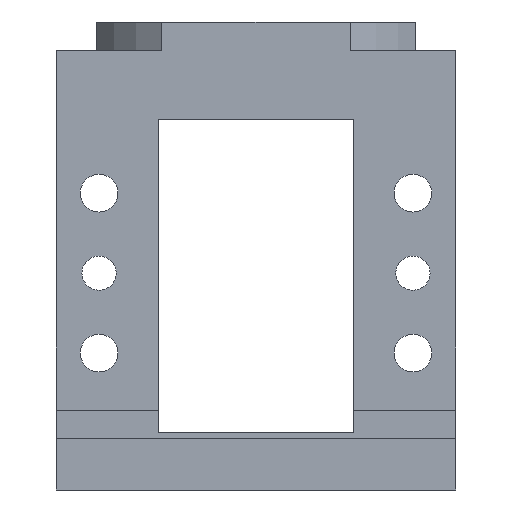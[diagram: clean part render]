
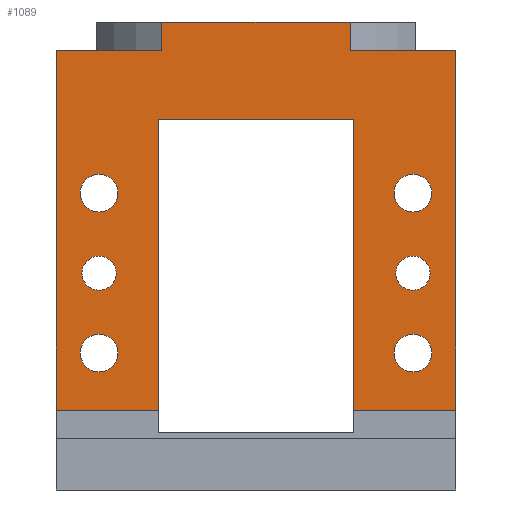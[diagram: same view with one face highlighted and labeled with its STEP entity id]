
A CAD part, front view. The second image highlights one B-rep face of the part: STEP entity #1089.
In plain terms, the highlighted planar face has unit normal (0, -1, 0).
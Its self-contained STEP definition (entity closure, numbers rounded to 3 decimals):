
#521=PLANE('',#3483);
#632=LINE('',#4434,#827);
#638=LINE('',#4448,#833);
#652=LINE('',#4489,#847);
#653=LINE('',#4494,#848);
#654=LINE('',#4496,#849);
#655=LINE('',#4498,#850);
#656=LINE('',#4500,#851);
#657=LINE('',#4502,#852);
#658=LINE('',#4503,#853);
#659=LINE('',#4505,#854);
#660=LINE('',#4507,#855);
#661=LINE('',#4508,#856);
#827=VECTOR('',#3789,1.);
#833=VECTOR('',#3799,1.);
#847=VECTOR('',#3831,1.);
#848=VECTOR('',#3838,1.);
#849=VECTOR('',#3839,1.);
#850=VECTOR('',#3840,1.);
#851=VECTOR('',#3841,1.);
#852=VECTOR('',#3842,1.);
#853=VECTOR('',#3843,1.);
#854=VECTOR('',#3844,1.);
#855=VECTOR('',#3845,1.);
#856=VECTOR('',#3846,1.);
#1089=ADVANCED_FACE('',(#1343,#1344,#1345,#1346,#1347,#1348,#1349),#521,
 .F.);
#1343=FACE_BOUND('',#1477,.T.);
#1344=FACE_BOUND('',#1478,.T.);
#1345=FACE_BOUND('',#1479,.T.);
#1346=FACE_BOUND('',#1480,.T.);
#1347=FACE_BOUND('',#1481,.T.);
#1348=FACE_BOUND('',#1482,.T.);
#1349=FACE_BOUND('',#1483,.T.);
#1477=EDGE_LOOP('',(#1788));
#1478=EDGE_LOOP('',(#1789));
#1479=EDGE_LOOP('',(#1790));
#1480=EDGE_LOOP('',(#1791));
#1481=EDGE_LOOP('',(#1792));
#1482=EDGE_LOOP('',(#1793));
#1483=EDGE_LOOP('',(#1794,#1795,#1796,#1797,#1798,#1799,#1800,#1801,#1802,
#1803,#1804,#1805));
#1788=ORIENTED_EDGE('',*,*,#2885,.F.);
#1789=ORIENTED_EDGE('',*,*,#2867,.F.);
#1790=ORIENTED_EDGE('',*,*,#2917,.F.);
#1791=ORIENTED_EDGE('',*,*,#2914,.F.);
#1792=ORIENTED_EDGE('',*,*,#2921,.F.);
#1793=ORIENTED_EDGE('',*,*,#2925,.F.);
#1794=ORIENTED_EDGE('',*,*,#2967,.F.);
#1795=ORIENTED_EDGE('',*,*,#2968,.T.);
#1796=ORIENTED_EDGE('',*,*,#2969,.T.);
#1797=ORIENTED_EDGE('',*,*,#2970,.T.);
#1798=ORIENTED_EDGE('',*,*,#2971,.F.);
#1799=ORIENTED_EDGE('',*,*,#2944,.F.);
#1800=ORIENTED_EDGE('',*,*,#2972,.T.);
#1801=ORIENTED_EDGE('',*,*,#2973,.T.);
#1802=ORIENTED_EDGE('',*,*,#2974,.T.);
#1803=ORIENTED_EDGE('',*,*,#2937,.T.);
#1804=ORIENTED_EDGE('',*,*,#2975,.F.);
#1805=ORIENTED_EDGE('',*,*,#2964,.F.);
#2547=VERTEX_POINT('',#4252);
#2565=VERTEX_POINT('',#4290);
#2600=VERTEX_POINT('',#4379);
#2603=VERTEX_POINT('',#4387);
#2607=VERTEX_POINT('',#4397);
#2611=VERTEX_POINT('',#4407);
#2622=VERTEX_POINT('',#4433);
#2623=VERTEX_POINT('',#4435);
#2628=VERTEX_POINT('',#4447);
#2629=VERTEX_POINT('',#4449);
#2642=VERTEX_POINT('',#4488);
#2643=VERTEX_POINT('',#4490);
#2644=VERTEX_POINT('',#4495);
#2645=VERTEX_POINT('',#4497);
#2646=VERTEX_POINT('',#4499);
#2647=VERTEX_POINT('',#4501);
#2648=VERTEX_POINT('',#4504);
#2649=VERTEX_POINT('',#4506);
#2867=EDGE_CURVE('',#2547,#2547,#3312,.T.);
#2885=EDGE_CURVE('',#2565,#2565,#3318,.T.);
#2914=EDGE_CURVE('',#2600,#2600,#3347,.T.);
#2917=EDGE_CURVE('',#2603,#2603,#3350,.T.);
#2921=EDGE_CURVE('',#2607,#2607,#3354,.T.);
#2925=EDGE_CURVE('',#2611,#2611,#3358,.T.);
#2937=EDGE_CURVE('',#2623,#2622,#632,.T.);
#2944=EDGE_CURVE('',#2628,#2629,#638,.T.);
#2964=EDGE_CURVE('',#2642,#2643,#652,.T.);
#2967=EDGE_CURVE('',#2644,#2642,#653,.T.);
#2968=EDGE_CURVE('',#2644,#2645,#654,.T.);
#2969=EDGE_CURVE('',#2645,#2646,#655,.T.);
#2970=EDGE_CURVE('',#2646,#2647,#656,.T.);
#2971=EDGE_CURVE('',#2629,#2647,#657,.T.);
#2972=EDGE_CURVE('',#2628,#2648,#658,.T.);
#2973=EDGE_CURVE('',#2648,#2649,#659,.T.);
#2974=EDGE_CURVE('',#2649,#2623,#660,.T.);
#2975=EDGE_CURVE('',#2643,#2622,#661,.T.);
#3312=CIRCLE('',#3379,3.);
#3318=CIRCLE('',#3387,3.);
#3347=CIRCLE('',#3441,3.3);
#3350=CIRCLE('',#3446,3.3);
#3354=CIRCLE('',#3452,3.3);
#3358=CIRCLE('',#3458,3.3);
#3379=AXIS2_PLACEMENT_3D('',#4251,#3592,#3593);
#3387=AXIS2_PLACEMENT_3D('',#4289,#3620,#3621);
#3441=AXIS2_PLACEMENT_3D('',#4378,#3728,#3729);
#3446=AXIS2_PLACEMENT_3D('',#4386,#3738,#3739);
#3452=AXIS2_PLACEMENT_3D('',#4396,#3750,#3751);
#3458=AXIS2_PLACEMENT_3D('',#4406,#3762,#3763);
#3483=AXIS2_PLACEMENT_3D('',#4509,#3847,#3848);
#3592=DIRECTION('',(0.,-1.,0.));
#3593=DIRECTION('',(0.,0.,-1.));
#3620=DIRECTION('',(0.,-1.,0.));
#3621=DIRECTION('',(0.,0.,-1.));
#3728=DIRECTION('',(0.,-1.,0.));
#3729=DIRECTION('',(-1.,0.,0.));
#3738=DIRECTION('',(0.,-1.,0.));
#3739=DIRECTION('',(-1.,0.,0.));
#3750=DIRECTION('',(0.,-1.,0.));
#3751=DIRECTION('',(-1.,0.,0.));
#3762=DIRECTION('',(0.,-1.,0.));
#3763=DIRECTION('',(-1.,0.,0.));
#3789=DIRECTION('',(-1.,0.,0.));
#3799=DIRECTION('',(-1.,0.,0.));
#3831=DIRECTION('',(1.,0.,0.));
#3838=DIRECTION('',(0.,0.,1.));
#3839=DIRECTION('',(-1.,0.,0.));
#3840=DIRECTION('',(0.,0.,-1.));
#3841=DIRECTION('',(1.,0.,0.));
#3842=DIRECTION('',(0.,0.,-1.));
#3843=DIRECTION('',(0.,0.,-1.));
#3844=DIRECTION('',(1.,0.,0.));
#3845=DIRECTION('',(0.,0.,1.));
#3846=DIRECTION('',(0.,0.,-1.));
#3847=DIRECTION('',(0.,1.,0.));
#3848=DIRECTION('',(1.,0.,0.));
#4251=CARTESIAN_POINT('',(27.5,-28.,33.));
#4252=CARTESIAN_POINT('',(27.5,-28.,30.));
#4289=CARTESIAN_POINT('',(-27.5,-28.,33.));
#4290=CARTESIAN_POINT('',(-27.5,-28.,30.));
#4378=CARTESIAN_POINT('',(27.5,-28.,47.));
#4379=CARTESIAN_POINT('',(24.2,-28.,47.));
#4386=CARTESIAN_POINT('',(27.5,-28.,19.));
#4387=CARTESIAN_POINT('',(24.2,-28.,19.));
#4396=CARTESIAN_POINT('',(-27.5,-28.,19.));
#4397=CARTESIAN_POINT('',(-30.8,-28.,19.));
#4406=CARTESIAN_POINT('',(-27.5,-28.,47.));
#4407=CARTESIAN_POINT('',(-30.8,-28.,47.));
#4433=CARTESIAN_POINT('',(16.5,-28.,72.));
#4434=CARTESIAN_POINT('',(-33.,-28.,72.));
#4435=CARTESIAN_POINT('',(35.,-28.,72.));
#4447=CARTESIAN_POINT('',(17.,-28.,60.));
#4448=CARTESIAN_POINT('',(-33.,-28.,60.));
#4449=CARTESIAN_POINT('',(-17.,-28.,60.));
#4488=CARTESIAN_POINT('',(-16.5,-28.,77.));
#4489=CARTESIAN_POINT('',(28.,-28.,77.));
#4490=CARTESIAN_POINT('',(16.5,-28.,77.));
#4494=CARTESIAN_POINT('',(-16.5,-28.,-24.48));
#4495=CARTESIAN_POINT('',(-16.5,-28.,72.));
#4496=CARTESIAN_POINT('',(-33.,-28.,72.));
#4497=CARTESIAN_POINT('',(-35.,-28.,72.));
#4498=CARTESIAN_POINT('',(-35.,-28.,72.));
#4499=CARTESIAN_POINT('',(-35.,-28.,9.));
#4500=CARTESIAN_POINT('',(-35.,-28.,9.));
#4501=CARTESIAN_POINT('',(-17.,-28.,9.));
#4502=CARTESIAN_POINT('',(-17.,-28.,67.));
#4503=CARTESIAN_POINT('',(17.,-28.,67.));
#4504=CARTESIAN_POINT('',(17.,-28.,9.));
#4505=CARTESIAN_POINT('',(-35.,-28.,9.));
#4506=CARTESIAN_POINT('',(35.,-28.,9.));
#4507=CARTESIAN_POINT('',(35.,-28.,72.));
#4508=CARTESIAN_POINT('',(16.5,-28.,-24.48));
#4509=CARTESIAN_POINT('',(-35.,-28.,143.544));
